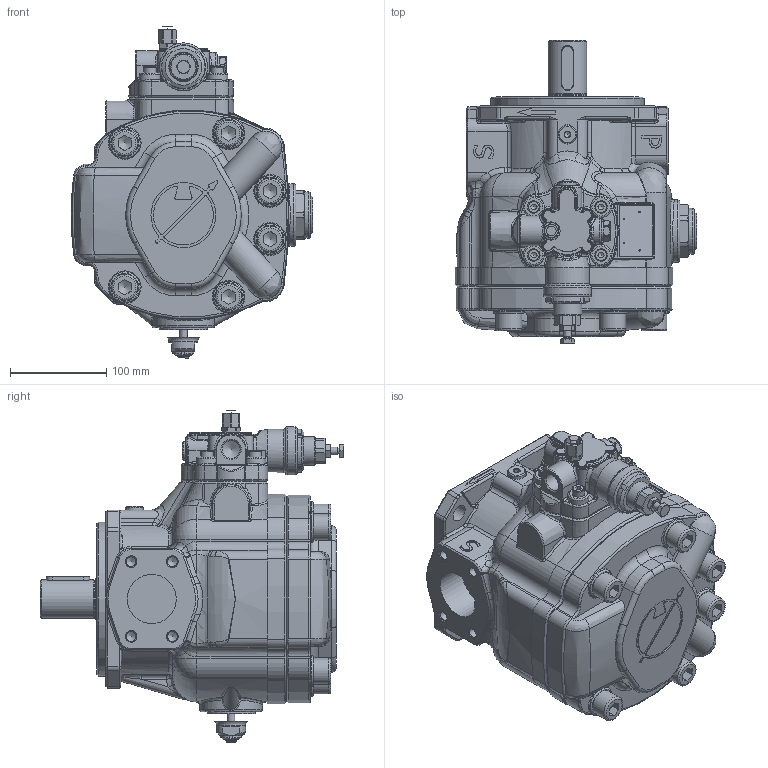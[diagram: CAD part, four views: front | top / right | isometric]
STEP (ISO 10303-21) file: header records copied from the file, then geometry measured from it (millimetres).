
FILE_DESCRIPTION(/* description */ (''),/* implementation_level */ '2;1');
FILE_NAME(/* name */ 'W:\Tecnico\Archivio\Dimensioni Pompe\3D Export\PHP\01 PHP 3 FHRM PCS006.stp',/* time_stamp */ '2020-08-31T10:26:02+02:00',/* author */ ('marcop'),/* organization */ (''),/* preprocessor_version */ 'ST-DEVELOPER v17',/* originating_system */ 'Autodesk Inventor 2018',/* authorisation */ '');
FILE_SCHEMA (('AUTOMOTIVE_DESIGN { 1 0 10303 214 3 1 1 }'));
Products named in the file (1): PLP-PHP 3_Shrinkwrap_1
Bounding box: 251.18 x 315.7 x 345.1 mm (x, y, z)
Volume: 6810472.8 mm3; surface area: 529761.9 mm2
Topology: 2 solids, 2 shells, 1940 faces, 4831 edges, 2920 vertices
Faces by surface type: plane 506, cylinder 505, bspline 458, torus 244, cone 183, sphere 44
Full cylindrical faces by diameter (mm): 1.7 x4, 3 x3, 3.15 x1, 6.5 x1, 6.917 x1, 7 x1, 8 x2, 8.376 x4, 10.106 x4, 12 x3, 13 x4, 13.6 x2, 14 x1, 15.5 x1, 18 x4, 18.631 x1, 19 x4, 20 x4, 23 x1, 27 x6, 30 x2, 32 x7, 33.376 x1, 39.4 x1, 40 x3, 45 x4, 48 x1, 49.8 x1, 50 x5, 51 x1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
Entity records: 74187 total; most frequent: CARTESIAN_POINT 28788, ORIENTED_EDGE 9510, DIRECTION 8586, EDGE_CURVE 4755, AXIS2_PLACEMENT_3D 3510, VERTEX_POINT 2920, EDGE_LOOP 2051, CIRCLE 1980
